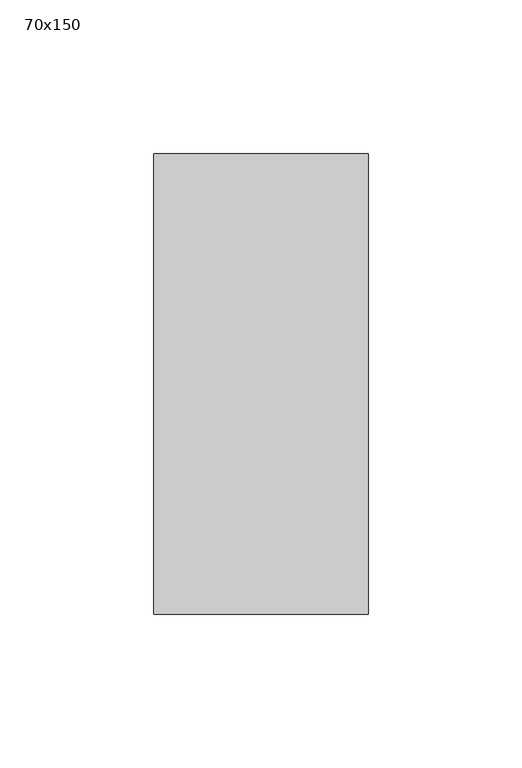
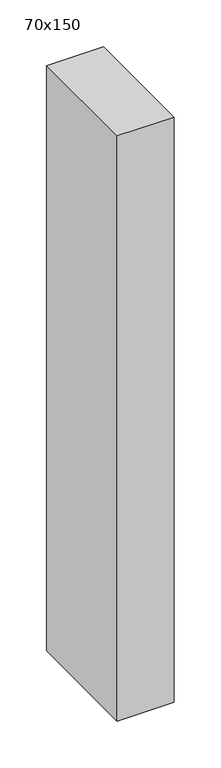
"""IFC4 building model written with IfcOpenShell, lengths in millimetres: member geometry, 長方形のマリオン : 70x150."""

from ifc_helpers import new_model, si_unit, frame, origin, place, context, project, spatial, polyline, outline, extrude, source, transform, mapped, element, save


def member_70x150_9a135ce4(model_context):
    return source(origin(), model_context, "Body", "SweptSolid", [
        extrude(outline(polyline([(0.0, 75.0), (0.0, -75.0), (-70.0, -75.0), (-70.0, 75.0), (0.0, 75.0)])), frame((0.0, 0.0, -760.0), z_axis=(0.0, 0.0, 1.0), x_axis=(1.0, 0.0, 0.0)), (0.0, 0.0, 1.0), 760.0),
    ])


if __name__ == "__main__":
    model = new_model("IFC4")
    model_context = context("Model", 3, world=origin())
    ifc_project = project(units=[si_unit("LENGTHUNIT", "METRE", prefix="MILLI")], contexts=[model_context])
    site = spatial("IfcSite", under=ifc_project)
    building = spatial("IfcBuilding", under=site)
    placement = place(None, origin())
    member_70x150_shape = member_70x150_9a135ce4(model_context)
    element("IfcMember", 1, ObjectType="長方形のマリオン : 70x150", at=placement, inside=building, context=model_context, shape_type="MappedRepresentation", body=[
        mapped(member_70x150_shape, transform((0.0, 0.0, 0.0), x_axis=(1.0, 0.0, 0.0), y_axis=(0.0, 1.0, 0.0), z_axis=(0.0, 0.0, 1.0))),
    ])
    save(model, "model.ifc")
